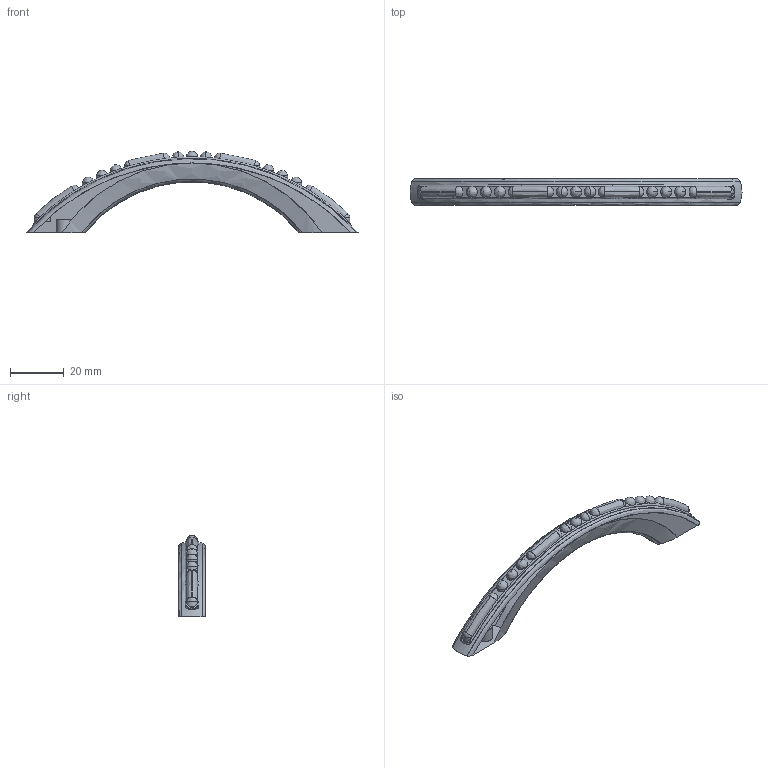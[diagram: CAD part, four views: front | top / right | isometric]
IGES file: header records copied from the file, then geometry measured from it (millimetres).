
Start section: C
Global section: file name: 8080.igs; native system: By Siemens PLM Incorporated; preprocessor: XPlus GENERIC/IGES 16.0.42; author: Author; organization: Title; date: 20231128.123053; units: millimetre
Bounding box: 123.96 x 10 x 30.37 mm (x, y, z)
Surface area: 7124.7 mm2 (no closed solid volume)
Topology: 0 solids, 0 shells, 150 faces, 1208 edges, 1208 vertices
Faces by surface type: bspline 150
